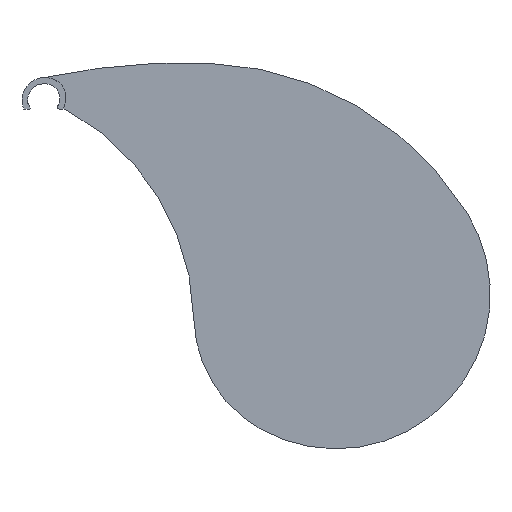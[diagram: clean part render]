
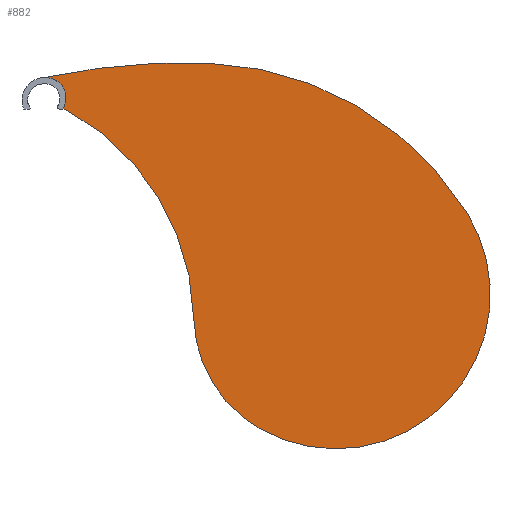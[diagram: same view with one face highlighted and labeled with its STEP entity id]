
A CAD part, front view. The second image highlights one B-rep face of the part: STEP entity #882.
In plain terms, the highlighted planar face has unit normal (0, -1, 0).
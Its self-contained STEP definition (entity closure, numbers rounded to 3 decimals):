
#31 = VERTEX_POINT ( 'NONE', #79 ) ;
#33 = VERTEX_POINT ( 'NONE', #81 ) ;
#35 = VERTEX_POINT ( 'NONE', #83 ) ;
#50 = VERTEX_POINT ( 'NONE', #98 ) ;
#52 = VERTEX_POINT ( 'NONE', #100 ) ;
#54 = VERTEX_POINT ( 'NONE', #102 ) ;
#56 = VERTEX_POINT ( 'NONE', #104 ) ;
#58 = VERTEX_POINT ( 'NONE', #106 ) ;
#79 = CARTESIAN_POINT ( 'NONE',  ( 5.826, 13., -3.575 ) ) ;
#81 = CARTESIAN_POINT ( 'NONE',  ( 5.317, 13., 4.77 ) ) ;
#83 = CARTESIAN_POINT ( 'NONE',  ( -0.128, 13., 7.025 ) ) ;
#98 = CARTESIAN_POINT ( 'NONE',  ( 7.261, 13., -3.941 ) ) ;
#100 = CARTESIAN_POINT ( 'NONE',  ( 50.012, 13., -74.03 ) ) ;
#102 = CARTESIAN_POINT ( 'NONE',  ( 72.698, 13., -111.5 ) ) ;
#104 = CARTESIAN_POINT ( 'NONE',  ( 142.011, 13., -38.509 ) ) ;
#106 = CARTESIAN_POINT ( 'NONE',  ( 55.05, 13., 11.853 ) ) ;
#116 = CARTESIAN_POINT ( 'NONE',  ( 51.187, 13., -95.077 ) ) ;
#117 = DIRECTION ( 'NONE',  ( 0., -1., 0. ) ) ;
#118 = DIRECTION ( 'NONE',  ( -1., 0., 0. ) ) ;
#124 = CARTESIAN_POINT ( 'NONE',  ( -31.966, 13., -75.949 ) ) ;
#126 = CARTESIAN_POINT ( 'NONE',  ( 46.927, 13., -213. ) ) ;
#128 = DIRECTION ( 'NONE',  ( 0., -1., 0. ) ) ;
#129 = DIRECTION ( 'NONE',  ( -1., 0., 0. ) ) ;
#132 = DIRECTION ( 'NONE',  ( 0., 1., 0. ) ) ;
#133 = DIRECTION ( 'NONE',  ( 1., 0., 0. ) ) ;
#136 = CARTESIAN_POINT ( 'NONE',  ( -0.033, 13., 0.255 ) ) ;
#143 = DIRECTION ( 'NONE',  ( 0., 1., 0. ) ) ;
#144 = DIRECTION ( 'NONE',  ( 1., 0., 0. ) ) ;
#166 = CARTESIAN_POINT ( 'NONE',  ( 94., 13., -73. ) ) ;
#168 = DIRECTION ( 'NONE',  ( 0., -1., 0. ) ) ;
#169 = DIRECTION ( 'NONE',  ( -1., 0., 0. ) ) ;
#183 = CARTESIAN_POINT ( 'NONE',  ( 97.872, 13., -66. ) ) ;
#192 = DIRECTION ( 'NONE',  ( 0., -1., 0. ) ) ;
#193 = DIRECTION ( 'NONE',  ( -1., 0., 0. ) ) ;
#235 = CARTESIAN_POINT ( 'NONE',  ( -0.128, 13., -0.675 ) ) ;
#244 = DIRECTION ( 'NONE',  ( 0., 1., 0. ) ) ;
#245 = DIRECTION ( 'NONE',  ( 1., 0., 0. ) ) ;
#281 = CARTESIAN_POINT ( 'NONE',  ( 5.826, 13., -6.575 ) ) ;
#288 = DIRECTION ( 'NONE',  ( 0., 1., 0. ) ) ;
#289 = DIRECTION ( 'NONE',  ( -1., 0., 0. ) ) ;
#359 = CARTESIAN_POINT ( 'NONE',  ( 23.4, 13., -106.838 ) ) ;
#360 = PLANE ( 'NONE',  #528 ) ;
#362 = DIRECTION ( 'NONE',  ( 0., -1., 0. ) ) ;
#363 = DIRECTION ( 'NONE',  ( 1., 0., 0. ) ) ;
#397 = EDGE_CURVE ( 'NONE', #56, #58, #613, .T. ) ;
#402 = EDGE_CURVE ( 'NONE', #58, #35, #617, .T. ) ;
#403 = AXIS2_PLACEMENT_3D ( 'NONE', #235, #244, #245 ) ;
#406 = EDGE_CURVE ( 'NONE', #50, #52, #611, .T. ) ;
#409 = AXIS2_PLACEMENT_3D ( 'NONE', #136, #143, #144 ) ;
#412 = EDGE_CURVE ( 'NONE', #33, #31, #824, .T. ) ;
#418 = AXIS2_PLACEMENT_3D ( 'NONE', #124, #132, #133 ) ;
#429 = AXIS2_PLACEMENT_3D ( 'NONE', #116, #117, #118 ) ;
#430 = EDGE_CURVE ( 'NONE', #52, #54, #628, .T. ) ;
#442 = EDGE_CURVE ( 'NONE', #54, #56, #605, .T. ) ;
#445 = AXIS2_PLACEMENT_3D ( 'NONE', #126, #128, #129 ) ;
#461 = AXIS2_PLACEMENT_3D ( 'NONE', #166, #168, #169 ) ;
#472 = EDGE_CURVE ( 'NONE', #35, #33, #775, .T. ) ;
#473 = AXIS2_PLACEMENT_3D ( 'NONE', #183, #192, #193 ) ;
#495 = EDGE_CURVE ( 'NONE', #31, #50, #766, .T. ) ;
#506 = AXIS2_PLACEMENT_3D ( 'NONE', #281, #288, #289 ) ;
#528 = AXIS2_PLACEMENT_3D ( 'NONE', #359, #362, #363 ) ;
#605 = CIRCLE ( 'NONE', #473, 52. ) ;
#611 = CIRCLE ( 'NONE', #418, 82. ) ;
#613 = CIRCLE ( 'NONE', #429, 107. ) ;
#617 = CIRCLE ( 'NONE', #445, 225. ) ;
#628 = CIRCLE ( 'NONE', #461, 44. ) ;
#665 = FACE_OUTER_BOUND ( 'NONE', #830, .T. ) ;
#702 = ORIENTED_EDGE ( 'NONE', *, *, #397, .T. ) ;
#703 = ORIENTED_EDGE ( 'NONE', *, *, #402, .T. ) ;
#705 = ORIENTED_EDGE ( 'NONE', *, *, #406, .T. ) ;
#706 = ORIENTED_EDGE ( 'NONE', *, *, #430, .T. ) ;
#707 = ORIENTED_EDGE ( 'NONE', *, *, #442, .T. ) ;
#712 = ORIENTED_EDGE ( 'NONE', *, *, #472, .T. ) ;
#713 = ORIENTED_EDGE ( 'NONE', *, *, #412, .T. ) ;
#714 = ORIENTED_EDGE ( 'NONE', *, *, #495, .T. ) ;
#766 = CIRCLE ( 'NONE', #506, 3. ) ;
#775 = CIRCLE ( 'NONE', #403, 7.7 ) ;
#824 = CIRCLE ( 'NONE', #409, 7. ) ;
#830 = EDGE_LOOP ( 'NONE', ( #712, #713, #714, #705, #706, #707, #702, #703 ) ) ;
#882 = ADVANCED_FACE ( 'NONE', ( #665 ), #360, .T. ) ;
